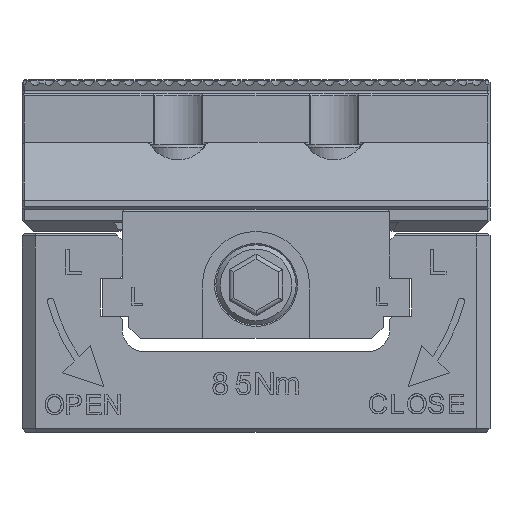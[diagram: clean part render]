
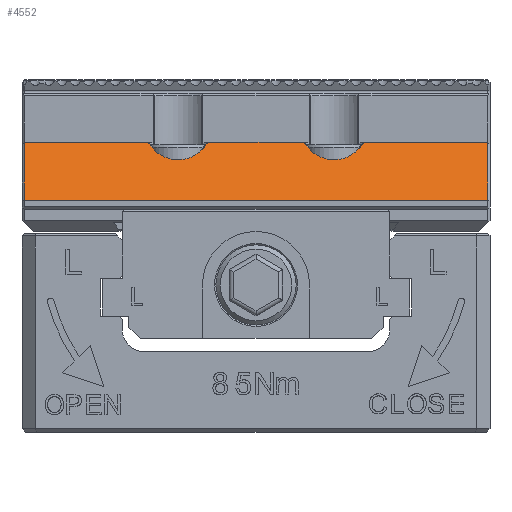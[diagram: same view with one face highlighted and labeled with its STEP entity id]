
A CAD part, front view. The second image highlights one B-rep face of the part: STEP entity #4552.
In plain terms, the highlighted planar face has unit normal (0, -0.707, 0.707).
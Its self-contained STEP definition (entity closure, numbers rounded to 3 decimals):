
#1603=FACE_OUTER_BOUND('',#11280,.T.);
#4552=ADVANCED_FACE('',(#1603),#7731,.F.);
#7731=PLANE('',#59027);
#11280=EDGE_LOOP('',(#17610,#17611,#17612,#17613,#17614,#17615,#17616,#17617,
#17618,#17619,#17620,#17621));
#14954=B_SPLINE_CURVE_WITH_KNOTS('',3,(#78554,#78555,#78556,#78557,#78558,
#78559,#78560,#78561,#78562,#78563),.UNSPECIFIED.,.F.,.F.,(4,2,2,2,4),(0.,
0.211,0.5,0.789,1.),.UNSPECIFIED.);
#14955=B_SPLINE_CURVE_WITH_KNOTS('',3,(#78566,#78567,#78568,#78569),.UNSPECIFIED.,
 .F.,.F.,(4,4),(0.,1.),.UNSPECIFIED.);
#14956=B_SPLINE_CURVE_WITH_KNOTS('',3,(#78570,#78571,#78572,#78573),.UNSPECIFIED.,
 .F.,.F.,(4,4),(0.,1.),.UNSPECIFIED.);
#14957=B_SPLINE_CURVE_WITH_KNOTS('',3,(#78575,#78576,#78577,#78578,#78579,
#78580,#78581,#78582,#78583,#78584),.UNSPECIFIED.,.F.,.F.,(4,2,2,2,4),(0.,
0.211,0.5,0.789,1.),.UNSPECIFIED.);
#14958=B_SPLINE_CURVE_WITH_KNOTS('',3,(#78586,#78587,#78588,#78589),.UNSPECIFIED.,
 .F.,.F.,(4,4),(0.,1.),.UNSPECIFIED.);
#14959=B_SPLINE_CURVE_WITH_KNOTS('',3,(#78592,#78593,#78594,#78595),.UNSPECIFIED.,
 .F.,.F.,(4,4),(0.,1.),.UNSPECIFIED.);
#17610=ORIENTED_EDGE('',*,*,#39503,.T.);
#17611=ORIENTED_EDGE('',*,*,#39504,.F.);
#17612=ORIENTED_EDGE('',*,*,#39430,.F.);
#17613=ORIENTED_EDGE('',*,*,#39505,.F.);
#17614=ORIENTED_EDGE('',*,*,#39506,.T.);
#17615=ORIENTED_EDGE('',*,*,#39507,.F.);
#17616=ORIENTED_EDGE('',*,*,#39501,.F.);
#17617=ORIENTED_EDGE('',*,*,#39508,.F.);
#17618=ORIENTED_EDGE('',*,*,#39493,.T.);
#17619=ORIENTED_EDGE('',*,*,#39509,.F.);
#17620=ORIENTED_EDGE('',*,*,#39422,.F.);
#17621=ORIENTED_EDGE('',*,*,#39510,.F.);
#33886=VERTEX_POINT('',#78357);
#33887=VERTEX_POINT('',#78358);
#33893=VERTEX_POINT('',#78378);
#33894=VERTEX_POINT('',#78380);
#33951=VERTEX_POINT('',#78532);
#33952=VERTEX_POINT('',#78533);
#33955=VERTEX_POINT('',#78546);
#33956=VERTEX_POINT('',#78548);
#33957=VERTEX_POINT('',#78564);
#33958=VERTEX_POINT('',#78565);
#33959=VERTEX_POINT('',#78574);
#33960=VERTEX_POINT('',#78585);
#39422=EDGE_CURVE('',#33886,#33887,#47371,.T.);
#39430=EDGE_CURVE('',#33893,#33894,#47374,.T.);
#39493=EDGE_CURVE('',#33951,#33952,#47426,.T.);
#39501=EDGE_CURVE('',#33955,#33956,#47432,.T.);
#39503=EDGE_CURVE('',#33957,#33958,#14954,.T.);
#39504=EDGE_CURVE('',#33894,#33958,#14955,.T.);
#39505=EDGE_CURVE('',#33959,#33893,#14956,.T.);
#39506=EDGE_CURVE('',#33959,#33960,#14957,.T.);
#39507=EDGE_CURVE('',#33956,#33960,#14958,.T.);
#39508=EDGE_CURVE('',#33951,#33955,#47433,.T.);
#39509=EDGE_CURVE('',#33887,#33952,#47434,.T.);
#39510=EDGE_CURVE('',#33957,#33886,#14959,.T.);
#47371=LINE('',#78356,#53127);
#47374=LINE('',#78379,#53130);
#47426=LINE('',#78531,#53182);
#47432=LINE('',#78547,#53188);
#47433=LINE('',#78590,#53189);
#47434=LINE('',#78591,#53190);
#53127=VECTOR('',#63432,1.);
#53130=VECTOR('',#63443,1.);
#53182=VECTOR('',#63533,1.);
#53188=VECTOR('',#63549,1.);
#53189=VECTOR('',#63552,1.);
#53190=VECTOR('',#63553,1.);
#59027=AXIS2_PLACEMENT_3D('',#78596,#63554,#63555);
#63432=DIRECTION('',(1.,0.,0.));
#63443=DIRECTION('',(1.,0.,0.));
#63533=DIRECTION('',(1.,0.,0.));
#63549=DIRECTION('',(1.,0.,0.));
#63552=DIRECTION('',(0.,0.707,0.707));
#63553=DIRECTION('',(0.,-0.707,-0.707));
#63554=DIRECTION('',(0.,0.707,-0.707));
#63555=DIRECTION('',(0.,-0.707,-0.707));
#78356=CARTESIAN_POINT('',(2031.751,122.136,604.9));
#78357=CARTESIAN_POINT('',(2145.658,122.136,604.9));
#78358=CARTESIAN_POINT('',(2173.052,122.136,604.9));
#78378=CARTESIAN_POINT('',(2110.648,122.136,604.9));
#78379=CARTESIAN_POINT('',(2031.751,122.136,604.9));
#78380=CARTESIAN_POINT('',(2131.445,122.136,604.9));
#78531=CARTESIAN_POINT('',(2031.751,109.136,591.9));
#78532=CARTESIAN_POINT('',(2069.052,109.136,591.9));
#78533=CARTESIAN_POINT('',(2173.052,109.136,591.9));
#78546=CARTESIAN_POINT('',(2069.052,122.136,604.9));
#78547=CARTESIAN_POINT('',(2031.751,122.136,604.9));
#78548=CARTESIAN_POINT('',(2096.455,122.136,604.9));
#78554=CARTESIAN_POINT('',(2145.153,122.136,604.9));
#78555=CARTESIAN_POINT('',(2144.608,121.147,603.911));
#78556=CARTESIAN_POINT('',(2143.84,120.28,603.045));
#78557=CARTESIAN_POINT('',(2141.653,118.724,601.488));
#78558=CARTESIAN_POINT('',(2140.105,118.229,600.993));
#78559=CARTESIAN_POINT('',(2136.998,118.229,600.993));
#78560=CARTESIAN_POINT('',(2135.45,118.724,601.488));
#78561=CARTESIAN_POINT('',(2133.263,120.28,603.045));
#78562=CARTESIAN_POINT('',(2132.495,121.147,603.911));
#78563=CARTESIAN_POINT('',(2131.95,122.136,604.9));
#78564=CARTESIAN_POINT('',(2144.933,121.763,604.527));
#78565=CARTESIAN_POINT('',(2132.17,121.763,604.527));
#78566=CARTESIAN_POINT('',(2131.445,122.136,604.9));
#78567=CARTESIAN_POINT('',(2131.687,122.008,604.773));
#78568=CARTESIAN_POINT('',(2131.929,121.883,604.649));
#78569=CARTESIAN_POINT('',(2132.17,121.763,604.527));
#78570=CARTESIAN_POINT('',(2109.937,121.77,604.534));
#78571=CARTESIAN_POINT('',(2110.174,121.888,604.654));
#78572=CARTESIAN_POINT('',(2110.411,122.01,604.776));
#78573=CARTESIAN_POINT('',(2110.648,122.136,604.9));
#78574=CARTESIAN_POINT('',(2109.937,121.77,604.534));
#78575=CARTESIAN_POINT('',(2110.153,122.136,604.9));
#78576=CARTESIAN_POINT('',(2109.608,121.147,603.911));
#78577=CARTESIAN_POINT('',(2108.84,120.28,603.045));
#78578=CARTESIAN_POINT('',(2106.653,118.724,601.488));
#78579=CARTESIAN_POINT('',(2105.105,118.229,600.993));
#78580=CARTESIAN_POINT('',(2101.998,118.229,600.993));
#78581=CARTESIAN_POINT('',(2100.45,118.724,601.488));
#78582=CARTESIAN_POINT('',(2098.263,120.28,603.045));
#78583=CARTESIAN_POINT('',(2097.495,121.147,603.911));
#78584=CARTESIAN_POINT('',(2096.95,122.136,604.9));
#78585=CARTESIAN_POINT('',(2097.166,121.77,604.534));
#78586=CARTESIAN_POINT('',(2096.455,122.136,604.9));
#78587=CARTESIAN_POINT('',(2096.692,122.01,604.776));
#78588=CARTESIAN_POINT('',(2096.929,121.888,604.654));
#78589=CARTESIAN_POINT('',(2097.166,121.77,604.534));
#78590=CARTESIAN_POINT('',(2069.052,121.636,604.4));
#78591=CARTESIAN_POINT('',(2173.052,111.636,594.4));
#78592=CARTESIAN_POINT('',(2144.933,121.763,604.527));
#78593=CARTESIAN_POINT('',(2145.174,121.883,604.649));
#78594=CARTESIAN_POINT('',(2145.416,122.008,604.773));
#78595=CARTESIAN_POINT('',(2145.658,122.136,604.9));
#78596=CARTESIAN_POINT('',(2031.751,112.136,594.9));
